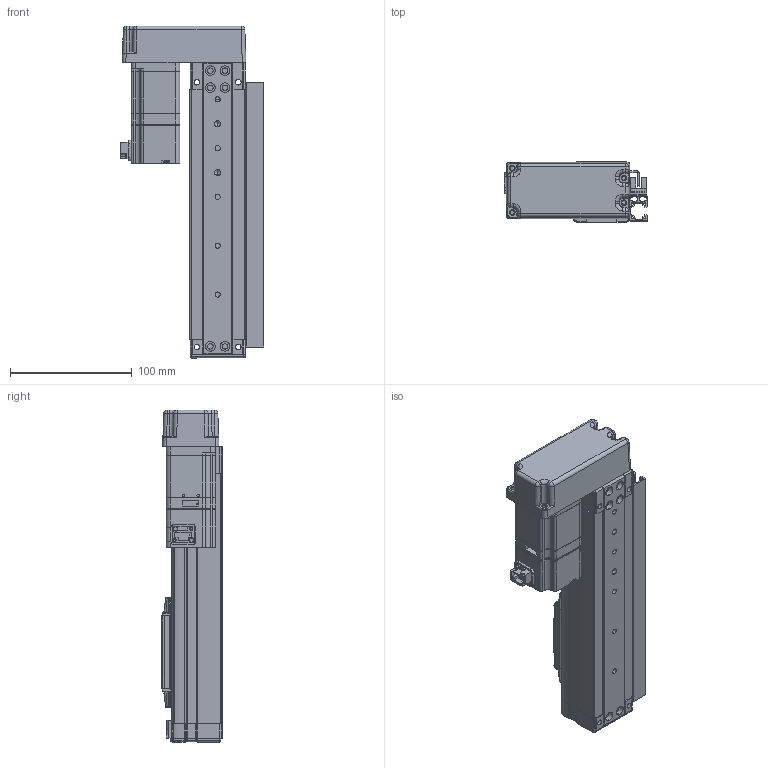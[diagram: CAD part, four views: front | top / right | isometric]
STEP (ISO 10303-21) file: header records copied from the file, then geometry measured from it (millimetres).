
FILE_DESCRIPTION (( 'STEP AP203' ), '1' );
FILE_NAME ('PES045LON-1205-ST100-10NN00-N-I3R.STEP', '2015-10-06T07:49:55', ( '' ), ( '' ), 'SwSTEP 2.0', 'SolidWorks 2012', '' );
FILE_SCHEMA (( 'CONFIG_CONTROL_DESIGN' ));
Length unit declared in the file: millimetre
Products named in the file (14): PES045-Carrier UPPER COVER; PES045-Carrier END COVER; PES045-Sus Band Holder; PES045P-100ST LM GUIDE; PES045-Carrier; PES045-END COVER(Tail); PES045S-Free Bearing; PES045P-Fix Bearing; EE_SX674; PES045-PULLEY COVER; PES045P-Front Plate; PES045-Sensor Dog; PES045LON-1205-ST100-10NN00-N-I3R; SGMJV 100W
Assembly tree (17 placements, depth 2):
  PES045LON-1205-ST100-10NN00-N-I3R
    PES045P-Fix Bearing
    PES045P-100ST LM GUIDE
    PES045S-Free Bearing
    PES045-Carrier
    PES045-END COVER(Tail)
    PES045-Carrier END COVER  x2
    PES045-Carrier UPPER COVER
    PES045-Sus Band Holder  x2
    PES045-Sensor Dog
    EE_SX674  x3
    PES045P-Front Plate
    PES045-PULLEY COVER
    SGMJV 100W
Bounding box: 117.6 x 50 x 272.13 mm (x, y, z)
Volume: 410008.8 mm3; surface area: 220809.5 mm2
Topology: 23 solids, 23 shells, 1905 faces, 5018 edges, 3218 vertices
Faces by surface type: plane 929, cylinder 697, bspline 146, cone 91, sphere 36, torus 6
Entity records: 61643 total; most frequent: CARTESIAN_POINT 18578, ORIENTED_EDGE 8914, DIRECTION 8367, EDGE_CURVE 4457, VERTEX_POINT 2868, AXIS2_PLACEMENT_3D 2846, LINE 2675, VECTOR 2675
